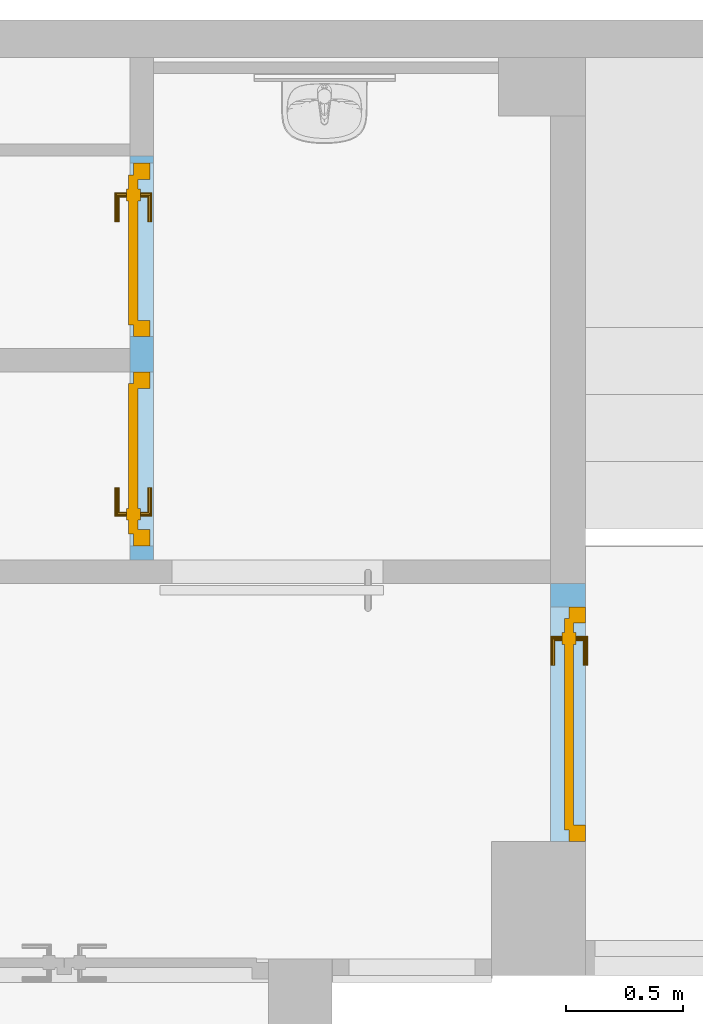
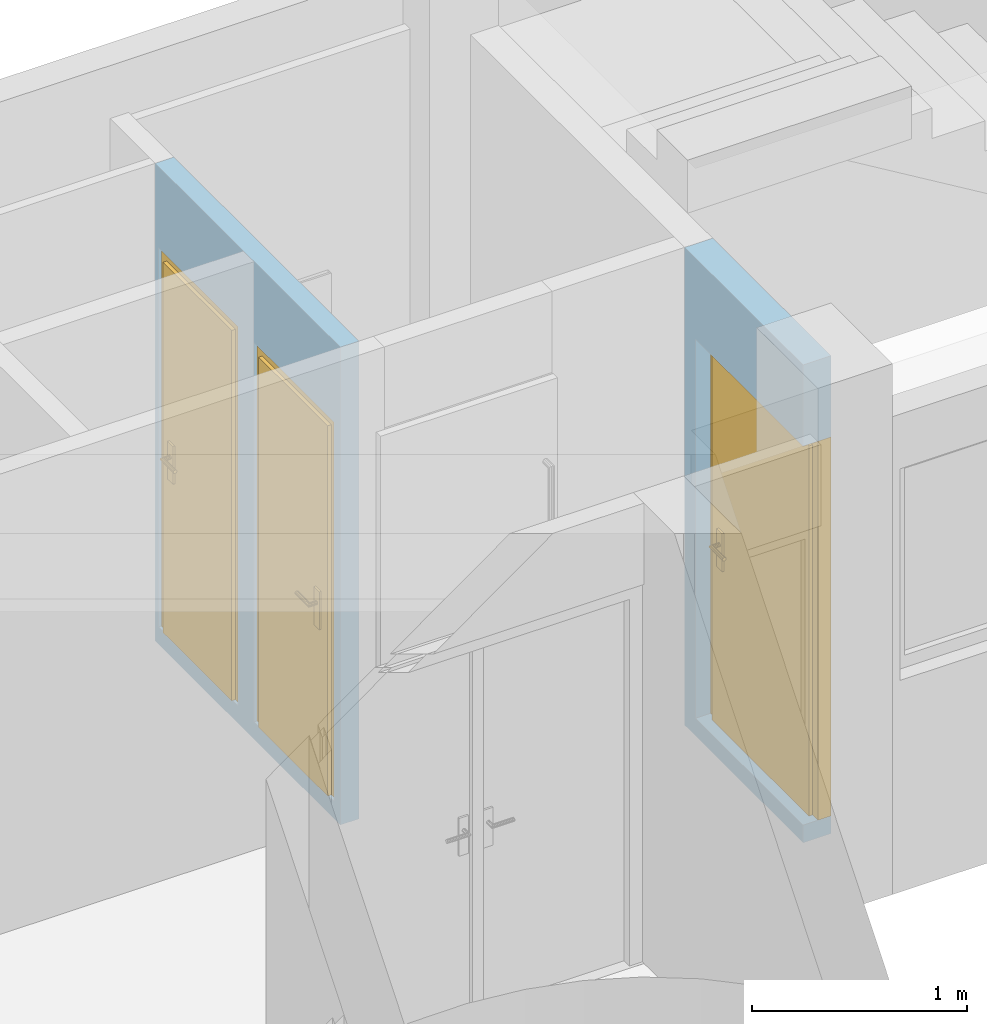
"""IFC4 building model written with IfcOpenShell, lengths in metres."""

from ifc_helpers import new_model, entity, si_unit, converted_unit, derived_unit, frame, frame_2d, origin, origin_with_axes, place, context, subcontext, project, spatial, polyline, rectangle, outline, extrude, faceted_brep, source, transform, mapped, material, layer, layer_set, layer_usage, element, fill, save


model = new_model("IFC4")

# Units and contexts
model_context = context("Model", 3, precision=1e-05, world=origin())
body_context = subcontext(model_context, "Body", "Model", "MODEL_VIEW")
ifc_project = project(units=[si_unit("LENGTHUNIT", "METRE"), si_unit("AREAUNIT", "SQUARE_METRE"), si_unit("VOLUMEUNIT", "CUBIC_METRE"), si_unit("MASSUNIT", "GRAM", prefix="KILO"), converted_unit("PLANEANGLEUNIT", "DEGREE", entity("IfcPlaneAngleMeasure", 0.0174532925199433), si_unit("PLANEANGLEUNIT", "RADIAN"), dimensions=[0, 0, 0, 0, 0, 0, 0]), derived_unit("THERMALTRANSMITTANCEUNIT", [(si_unit("POWERUNIT", "WATT"), 1), (si_unit("THERMODYNAMICTEMPERATUREUNIT", "KELVIN"), -1), (si_unit("LENGTHUNIT", "METRE"), -2)]), derived_unit("VOLUMETRICFLOWRATEUNIT", [(si_unit("LENGTHUNIT", "METRE"), 3), (converted_unit("TIMEUNIT", "hour", entity("IfcTimeMeasure", 3600.0), si_unit("TIMEUNIT", "SECOND"), dimensions=[0, 0, 1, 0, 0, 0, 0]), -1), (si_unit("LENGTHUNIT", "METRE"), -1)])], contexts=[model_context])

# Building, storeys
building_placement = place(None, origin())
building = spatial("IfcBuilding", under=ifc_project, at=building_placement, Name="HABITATGE PLURIFAMILIAR", CompositionType="ELEMENT")
storey_1_placement = place(building_placement, frame((0.0, 0.0, 18.29)))
storey_1 = spatial("IfcBuildingStorey", under=building, at=storey_1_placement, Name="PLANTA CINQUENA", CompositionType="ELEMENT", Elevation=18.29)
storey_2_placement = place(storey_1_placement, frame((0.0, 0.0, 15.28)))
storey_2 = spatial("IfcBuildingStorey", under=storey_1, at=storey_2_placement, Name="NOU", CompositionType="PARTIAL")

# Wall, openings, doors
ifc_material_1 = material()
ifc_layer_1 = layer(ifc_material_1, 0.1)
ifc_layer_set_1 = layer_set([ifc_layer_1])
ifc_layer_usage_1 = layer_usage(ifc_layer_set_1, "AXIS2", "POSITIVE", 0.0)
wall_1_placement = place(storey_2_placement, frame((408.986984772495, 25.9294598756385, -15.38), z_axis=(0.0, 0.0, 1.0), x_axis=(0.0, 1.0, 0.0)))
wall_1 = element("IfcWall", 1, at=wall_1_placement, inside=storey_2, material=ifc_layer_usage_1, Name="Evans P5", context=body_context, shape_type="SweptSolid", body=[
    extrude(rectangle(XDim=1.72000000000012, YDim=0.1, at=frame_2d((0.860000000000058, 0.05), x_axis=(1.0, 0.0))), origin_with_axes(), (0.0, 0.0, 1.0), 2.71),
])
opening_1_placement = place(wall_1_placement, frame((0.800488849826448, 0.1, 0.1), z_axis=(0.0, -1.0, 0.0), x_axis=(0.0, 0.0, 1.0)))
opening_1 = element("IfcOpeningElement", 2, at=opening_1_placement, cuts=wall_1, Name="Vano porta P5", ObjectType="Opening", context=body_context, shape_type="SweptSolid", body=[
    extrude(outline(polyline([(2.15, 0.741515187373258), (2.15, 0.0), (0.0, 0.0), (0.0, 0.741515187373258), (2.15, 0.741515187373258)])), origin_with_axes(), (0.0, 0.0, 1.0), 0.1),
])
opening_2_placement = place(wall_1_placement, frame((1.68897366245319, 0.1, 0.1), z_axis=(0.0, -1.0, 0.0), x_axis=(0.0, 0.0, 1.0)))
opening_2 = element("IfcOpeningElement", 3, at=opening_2_placement, cuts=wall_1, Name="Vano porta P5", ObjectType="Opening", context=body_context, shape_type="SweptSolid", body=[
    extrude(outline(polyline([(2.15, 0.738973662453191), (2.15, 0.0), (0.0, 0.0), (0.0, 0.738973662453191), (2.15, 0.738973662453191)])), origin_with_axes(), (0.0, 0.0, 1.0), 0.1),
])
shared_shape_1 = source(origin_with_axes(), body_context, "Body", "Brep", [
    faceted_brep([(0.0, 0.0700000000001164, 2.15), (0.0, 0.0700000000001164, 0.0), (0.0700000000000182, 0.0700000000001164, 0.0), (0.0700000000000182, 0.0700000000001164, 2.15), (0.0, 0.0, 0.0), (0.0, 0.0, 2.15), (0.0700000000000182, 0.0, 2.15), (0.0700000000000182, 0.0, 0.0)], [[[0, 1, 2, 3]], [[4, 5, 6, 7]], [[1, 0, 5, 4]], [[2, 1, 4, 7]], [[3, 2, 7, 6]], [[0, 3, 6, 5]]], orient=[[False], [False], [False], [False], [False], [False]]),
    faceted_brep([(0.671515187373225, 0.0700000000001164, 2.15), (0.671515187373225, 0.0700000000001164, 0.0), (0.74151518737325, 0.0700000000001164, 0.0), (0.74151518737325, 0.0700000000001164, 2.15), (0.671515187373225, 0.0, 0.0), (0.671515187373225, 0.0, 2.15), (0.74151518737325, 0.0, 2.15), (0.74151518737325, 0.0, 0.0)], [[[0, 1, 2, 3]], [[4, 5, 6, 7]], [[1, 0, 5, 4]], [[2, 1, 4, 7]], [[3, 2, 7, 6]], [[0, 3, 6, 5]]], orient=[[False], [False], [False], [False], [False], [False]]),
    faceted_brep([(0.0700000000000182, 0.0700000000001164, 2.15), (0.0700000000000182, 0.0700000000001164, 2.08), (0.671515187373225, 0.0700000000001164, 2.08), (0.671515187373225, 0.0700000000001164, 2.15), (0.0700000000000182, 0.0, 2.08), (0.0700000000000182, 0.0, 2.15), (0.671515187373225, 0.0, 2.15), (0.671515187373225, 0.0, 2.08)], [[[0, 1, 2, 3]], [[4, 5, 6, 7]], [[1, 0, 5, 4]], [[2, 1, 4, 7]], [[3, 2, 7, 6]], [[0, 3, 6, 5]]], orient=[[False], [False], [False], [False], [False], [False]]),
    faceted_brep([(0.0500000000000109, 0.0900000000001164, 2.1), (0.0500000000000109, 0.0900000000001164, 0.0), (0.691515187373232, 0.0900000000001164, 0.0), (0.691515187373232, 0.0900000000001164, 2.1), (0.0500000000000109, 0.0500000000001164, 0.0), (0.0500000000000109, 0.0500000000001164, 2.1), (0.691515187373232, 0.0500000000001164, 2.1), (0.691515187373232, 0.0500000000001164, 0.0)], [[[0, 1, 2, 3]], [[4, 5, 6, 7]], [[1, 0, 5, 4]], [[2, 1, 4, 7]], [[3, 2, 7, 6]], [[0, 3, 6, 5]]], orient=[[False], [False], [False], [False], [False], [False]]),
    faceted_brep([(0.110000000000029, 0.0500000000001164, 1.125), (0.110000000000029, 0.0500000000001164, 0.91), (0.160000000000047, 0.0500000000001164, 0.91), (0.160000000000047, 0.0500000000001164, 1.125), (0.110000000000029, 0.0400000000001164, 0.91), (0.110000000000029, 0.0400000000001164, 1.125), (0.160000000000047, 0.0400000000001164, 1.125), (0.160000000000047, 0.0400000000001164, 0.91)], [[[0, 1, 2, 3]], [[4, 5, 6, 7]], [[1, 0, 5, 4]], [[2, 1, 4, 7]], [[3, 2, 7, 6]], [[0, 3, 6, 5]]], orient=[[False], [False], [False], [False], [False], [False]]),
    faceted_brep([(0.13500000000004, 0.0400000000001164, 1.06), (0.130000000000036, 0.0400000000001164, 1.05866025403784), (0.126339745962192, 0.0400000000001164, 1.055), (0.125000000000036, 0.0400000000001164, 1.05), (0.126339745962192, 0.0400000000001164, 1.045), (0.130000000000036, 0.0400000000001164, 1.04133974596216), (0.13500000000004, 0.0400000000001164, 1.04), (0.14000000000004, 0.0400000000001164, 1.04133974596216), (0.143660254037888, 0.0400000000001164, 1.045), (0.145000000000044, 0.0400000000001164, 1.05), (0.143660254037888, 0.0400000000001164, 1.055), (0.14000000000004, 0.0400000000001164, 1.05866025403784), (0.13500000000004, 0.0, 1.06), (0.130000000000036, -0.00499999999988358, 1.05866025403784), (0.126339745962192, -0.00866025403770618, 1.055), (0.125000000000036, -0.00999999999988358, 1.05), (0.126339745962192, -0.00866025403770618, 1.045), (0.130000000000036, -0.00499999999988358, 1.04133974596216), (0.13500000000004, 0.0, 1.04), (0.14000000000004, 0.00500000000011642, 1.04133974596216), (0.143660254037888, 0.00866025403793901, 1.045), (0.145000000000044, 0.0100000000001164, 1.05), (0.143660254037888, 0.00866025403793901, 1.055), (0.14000000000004, 0.00500000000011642, 1.05866025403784), (0.25000000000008, 0.0, 1.06), (0.25000000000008, 0.00500000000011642, 1.05866025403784), (0.25000000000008, 0.00866025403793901, 1.055), (0.25000000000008, 0.0100000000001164, 1.05), (0.25000000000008, 0.00866025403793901, 1.045), (0.25000000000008, 0.00500000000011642, 1.04133974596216), (0.25000000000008, 0.0, 1.04), (0.25000000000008, -0.00499999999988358, 1.04133974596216), (0.25000000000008, -0.00866025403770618, 1.045), (0.25000000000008, -0.00999999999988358, 1.05), (0.25000000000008, -0.00866025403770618, 1.055), (0.25000000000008, -0.00499999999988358, 1.05866025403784)], [[[0, 1, 2, 3, 4, 5, 6, 7, 8, 9, 10, 11]], [[0, 12, 13, 1]], [[1, 13, 14, 2]], [[2, 14, 15, 3]], [[3, 15, 16, 4]], [[4, 16, 17, 5]], [[5, 17, 18, 6]], [[6, 18, 19, 7]], [[7, 19, 20, 8]], [[8, 20, 21, 9]], [[9, 21, 22, 10]], [[10, 22, 23, 11]], [[11, 23, 12, 0]], [[24, 25, 26, 27, 28, 29, 30, 31, 32, 33, 34, 35]], [[12, 24, 35, 13]], [[13, 35, 34, 14]], [[14, 34, 33, 15]], [[15, 33, 32, 16]], [[16, 32, 31, 17]], [[17, 31, 30, 18]], [[18, 30, 29, 19]], [[19, 29, 28, 20]], [[20, 28, 27, 21]], [[21, 27, 26, 22]], [[22, 26, 25, 23]], [[23, 25, 24, 12]]], orient=[[False], [False], [False], [False], [False], [False], [False], [False], [False], [False], [False], [False], [False], [False], [False], [False], [False], [False], [False], [False], [False], [False], [False], [False], [False], [False]]),
    faceted_brep([(0.110000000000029, 0.0900000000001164, 1.125), (0.160000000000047, 0.0900000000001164, 1.125), (0.160000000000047, 0.0900000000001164, 0.91), (0.110000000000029, 0.0900000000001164, 0.91), (0.110000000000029, 0.100000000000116, 0.91), (0.160000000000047, 0.100000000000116, 0.91), (0.160000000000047, 0.100000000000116, 1.125), (0.110000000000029, 0.100000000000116, 1.125)], [[[0, 1, 2, 3]], [[4, 5, 6, 7]], [[3, 4, 7, 0]], [[2, 5, 4, 3]], [[1, 6, 5, 2]], [[0, 7, 6, 1]]], orient=[[False], [False], [False], [False], [False], [False]]),
    faceted_brep([(0.13500000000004, 0.100000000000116, 1.06), (0.14000000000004, 0.100000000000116, 1.05866025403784), (0.143660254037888, 0.100000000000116, 1.055), (0.145000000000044, 0.100000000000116, 1.05), (0.143660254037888, 0.100000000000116, 1.045), (0.14000000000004, 0.100000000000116, 1.04133974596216), (0.13500000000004, 0.100000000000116, 1.04), (0.130000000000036, 0.100000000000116, 1.04133974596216), (0.126339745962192, 0.100000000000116, 1.045), (0.125000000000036, 0.100000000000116, 1.05), (0.126339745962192, 0.100000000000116, 1.055), (0.130000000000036, 0.100000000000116, 1.05866025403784), (0.130000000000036, 0.145000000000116, 1.05866025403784), (0.13500000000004, 0.140000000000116, 1.06), (0.126339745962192, 0.148660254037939, 1.055), (0.125000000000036, 0.150000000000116, 1.05), (0.126339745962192, 0.148660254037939, 1.045), (0.130000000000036, 0.145000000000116, 1.04133974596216), (0.13500000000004, 0.140000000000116, 1.04), (0.14000000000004, 0.135000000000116, 1.04133974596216), (0.143660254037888, 0.131339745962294, 1.045), (0.145000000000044, 0.130000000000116, 1.05), (0.143660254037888, 0.131339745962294, 1.055), (0.14000000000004, 0.135000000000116, 1.05866025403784), (0.25000000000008, 0.140000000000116, 1.06), (0.25000000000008, 0.145000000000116, 1.05866025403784), (0.25000000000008, 0.148660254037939, 1.055), (0.25000000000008, 0.150000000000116, 1.05), (0.25000000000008, 0.148660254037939, 1.045), (0.25000000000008, 0.145000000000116, 1.04133974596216), (0.25000000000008, 0.140000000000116, 1.04), (0.25000000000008, 0.135000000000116, 1.04133974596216), (0.25000000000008, 0.131339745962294, 1.045), (0.25000000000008, 0.130000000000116, 1.05), (0.25000000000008, 0.131339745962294, 1.055), (0.25000000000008, 0.135000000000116, 1.05866025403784)], [[[0, 1, 2, 3, 4, 5, 6, 7, 8, 9, 10, 11]], [[0, 11, 12, 13]], [[11, 10, 14, 12]], [[10, 9, 15, 14]], [[9, 8, 16, 15]], [[8, 7, 17, 16]], [[7, 6, 18, 17]], [[6, 5, 19, 18]], [[5, 4, 20, 19]], [[4, 3, 21, 20]], [[3, 2, 22, 21]], [[2, 1, 23, 22]], [[1, 0, 13, 23]], [[24, 25, 26, 27, 28, 29, 30, 31, 32, 33, 34, 35]], [[13, 12, 25, 24]], [[12, 14, 26, 25]], [[14, 15, 27, 26]], [[15, 16, 28, 27]], [[16, 17, 29, 28]], [[17, 18, 30, 29]], [[18, 19, 31, 30]], [[19, 20, 32, 31]], [[20, 21, 33, 32]], [[21, 22, 34, 33]], [[22, 23, 35, 34]], [[23, 13, 24, 35]]], orient=[[False], [False], [False], [False], [False], [False], [False], [False], [False], [False], [False], [False], [False], [False], [False], [False], [False], [False], [False], [False], [False], [False], [False], [False], [False], [False]]),
])
door_1_placement = place(opening_1_placement, frame((0.0, 0.741515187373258, 0.085), z_axis=(1.0, 0.0, 0.0), x_axis=(0.0, -1.0, 0.0)))
door_1 = element("IfcDoor", 4, at=door_1_placement, inside=storey_2, Name="Porta P5", OperationType="USERDEFINED", OverallHeight=2.15, OverallWidth=0.74152, PredefinedType="DOOR", context=body_context, shape_type="MappedRepresentation", body=[
    mapped(shared_shape_1, transform((0.0, 0.0, 0.0), x_axis=(1.0, 0.0, 0.0), y_axis=(0.0, 1.0, 0.0), z_axis=(0.0, 0.0, 1.0), scale=1.0)),
])
fill(opening_1, door_1)
shared_shape_2 = source(origin_with_axes(), body_context, "Body", "Brep", [
    faceted_brep([(0.738973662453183, 0.0700000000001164, 2.15), (0.668973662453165, 0.0700000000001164, 2.15), (0.668973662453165, 0.0700000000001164, 0.0), (0.738973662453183, 0.0700000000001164, 0.0), (0.738973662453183, 0.0, 0.0), (0.668973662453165, 0.0, 0.0), (0.668973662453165, 0.0, 2.15), (0.738973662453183, 0.0, 2.15)], [[[0, 1, 2, 3]], [[4, 5, 6, 7]], [[3, 4, 7, 0]], [[2, 5, 4, 3]], [[1, 6, 5, 2]], [[0, 7, 6, 1]]], orient=[[False], [False], [False], [False], [False], [False]]),
    faceted_brep([(0.0700000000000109, 0.0700000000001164, 2.15), (0.0, 0.0700000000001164, 2.15), (0.0, 0.0700000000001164, 0.0), (0.0700000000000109, 0.0700000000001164, 0.0), (0.0700000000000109, 0.0, 0.0), (0.0, 0.0, 0.0), (0.0, 0.0, 2.15), (0.0700000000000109, 0.0, 2.15)], [[[0, 1, 2, 3]], [[4, 5, 6, 7]], [[3, 4, 7, 0]], [[2, 5, 4, 3]], [[1, 6, 5, 2]], [[0, 7, 6, 1]]], orient=[[False], [False], [False], [False], [False], [False]]),
    faceted_brep([(0.668973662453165, 0.0700000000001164, 2.15), (0.0700000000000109, 0.0700000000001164, 2.15), (0.0700000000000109, 0.0700000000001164, 2.08), (0.668973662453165, 0.0700000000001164, 2.08), (0.668973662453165, 0.0, 2.08), (0.0700000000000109, 0.0, 2.08), (0.0700000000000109, 0.0, 2.15), (0.668973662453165, 0.0, 2.15)], [[[0, 1, 2, 3]], [[4, 5, 6, 7]], [[3, 4, 7, 0]], [[2, 5, 4, 3]], [[1, 6, 5, 2]], [[0, 7, 6, 1]]], orient=[[False], [False], [False], [False], [False], [False]]),
    faceted_brep([(0.688973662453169, 0.0900000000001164, 2.1), (0.0500000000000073, 0.0900000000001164, 2.1), (0.0500000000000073, 0.0900000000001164, 0.0), (0.688973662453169, 0.0900000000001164, 0.0), (0.688973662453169, 0.0500000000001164, 0.0), (0.0500000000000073, 0.0500000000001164, 0.0), (0.0500000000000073, 0.0500000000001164, 2.1), (0.688973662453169, 0.0500000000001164, 2.1)], [[[0, 1, 2, 3]], [[4, 5, 6, 7]], [[3, 4, 7, 0]], [[2, 5, 4, 3]], [[1, 6, 5, 2]], [[0, 7, 6, 1]]], orient=[[False], [False], [False], [False], [False], [False]]),
    faceted_brep([(0.628973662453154, 0.0500000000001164, 1.125), (0.578973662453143, 0.0500000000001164, 1.125), (0.578973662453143, 0.0500000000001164, 0.91), (0.628973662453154, 0.0500000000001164, 0.91), (0.628973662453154, 0.0400000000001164, 0.91), (0.578973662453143, 0.0400000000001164, 0.91), (0.578973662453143, 0.0400000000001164, 1.125), (0.628973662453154, 0.0400000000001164, 1.125)], [[[0, 1, 2, 3]], [[4, 5, 6, 7]], [[3, 4, 7, 0]], [[2, 5, 4, 3]], [[1, 6, 5, 2]], [[0, 7, 6, 1]]], orient=[[False], [False], [False], [False], [False], [False]]),
    faceted_brep([(0.603973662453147, 0.0400000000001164, 1.06), (0.598973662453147, 0.0400000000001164, 1.05866025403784), (0.595313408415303, 0.0400000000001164, 1.055), (0.593973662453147, 0.0400000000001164, 1.05), (0.595313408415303, 0.0400000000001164, 1.045), (0.598973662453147, 0.0400000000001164, 1.04133974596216), (0.603973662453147, 0.0400000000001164, 1.04), (0.608973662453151, 0.0400000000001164, 1.04133974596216), (0.612633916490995, 0.0400000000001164, 1.045), (0.613973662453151, 0.0400000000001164, 1.05), (0.612633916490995, 0.0400000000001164, 1.055), (0.608973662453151, 0.0400000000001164, 1.05866025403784), (0.608973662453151, -0.00499999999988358, 1.05866025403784), (0.603973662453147, 0.0, 1.06), (0.612633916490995, -0.00866025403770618, 1.055), (0.613973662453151, -0.00999999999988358, 1.05), (0.612633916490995, -0.00866025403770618, 1.045), (0.608973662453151, -0.00499999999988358, 1.04133974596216), (0.603973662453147, 0.0, 1.04), (0.598973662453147, 0.00500000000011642, 1.04133974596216), (0.595313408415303, 0.00866025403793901, 1.045), (0.593973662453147, 0.0100000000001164, 1.05), (0.595313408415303, 0.00866025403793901, 1.055), (0.598973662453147, 0.00500000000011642, 1.05866025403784), (0.488973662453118, 0.0, 1.06), (0.488973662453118, -0.00499999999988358, 1.05866025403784), (0.488973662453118, -0.00866025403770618, 1.055), (0.488973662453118, -0.00999999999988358, 1.05), (0.488973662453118, -0.00866025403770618, 1.045), (0.488973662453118, -0.00499999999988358, 1.04133974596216), (0.488973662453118, 0.0, 1.04), (0.488973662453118, 0.00500000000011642, 1.04133974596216), (0.488973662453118, 0.00866025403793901, 1.045), (0.488973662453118, 0.0100000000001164, 1.05), (0.488973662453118, 0.00866025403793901, 1.055), (0.488973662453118, 0.00500000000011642, 1.05866025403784)], [[[0, 1, 2, 3, 4, 5, 6, 7, 8, 9, 10, 11]], [[0, 11, 12, 13]], [[11, 10, 14, 12]], [[10, 9, 15, 14]], [[9, 8, 16, 15]], [[8, 7, 17, 16]], [[7, 6, 18, 17]], [[6, 5, 19, 18]], [[5, 4, 20, 19]], [[4, 3, 21, 20]], [[3, 2, 22, 21]], [[2, 1, 23, 22]], [[1, 0, 13, 23]], [[24, 25, 26, 27, 28, 29, 30, 31, 32, 33, 34, 35]], [[13, 12, 25, 24]], [[12, 14, 26, 25]], [[14, 15, 27, 26]], [[15, 16, 28, 27]], [[16, 17, 29, 28]], [[17, 18, 30, 29]], [[18, 19, 31, 30]], [[19, 20, 32, 31]], [[20, 21, 33, 32]], [[21, 22, 34, 33]], [[22, 23, 35, 34]], [[23, 13, 24, 35]]], orient=[[False], [False], [False], [False], [False], [False], [False], [False], [False], [False], [False], [False], [False], [False], [False], [False], [False], [False], [False], [False], [False], [False], [False], [False], [False], [False]]),
    faceted_brep([(0.628973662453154, 0.0900000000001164, 1.125), (0.628973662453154, 0.0900000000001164, 0.91), (0.578973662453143, 0.0900000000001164, 0.91), (0.578973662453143, 0.0900000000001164, 1.125), (0.628973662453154, 0.100000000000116, 0.91), (0.628973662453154, 0.100000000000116, 1.125), (0.578973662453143, 0.100000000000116, 1.125), (0.578973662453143, 0.100000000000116, 0.91)], [[[0, 1, 2, 3]], [[4, 5, 6, 7]], [[1, 0, 5, 4]], [[2, 1, 4, 7]], [[3, 2, 7, 6]], [[0, 3, 6, 5]]], orient=[[False], [False], [False], [False], [False], [False]]),
    faceted_brep([(0.603973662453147, 0.100000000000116, 1.06), (0.608973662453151, 0.100000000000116, 1.05866025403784), (0.612633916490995, 0.100000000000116, 1.055), (0.613973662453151, 0.100000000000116, 1.05), (0.612633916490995, 0.100000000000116, 1.045), (0.608973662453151, 0.100000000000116, 1.04133974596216), (0.603973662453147, 0.100000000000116, 1.04), (0.598973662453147, 0.100000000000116, 1.04133974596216), (0.595313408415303, 0.100000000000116, 1.045), (0.593973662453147, 0.100000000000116, 1.05), (0.595313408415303, 0.100000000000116, 1.055), (0.598973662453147, 0.100000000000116, 1.05866025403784), (0.603973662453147, 0.140000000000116, 1.06), (0.608973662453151, 0.145000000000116, 1.05866025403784), (0.612633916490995, 0.148660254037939, 1.055), (0.613973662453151, 0.150000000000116, 1.05), (0.612633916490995, 0.148660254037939, 1.045), (0.608973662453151, 0.145000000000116, 1.04133974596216), (0.603973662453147, 0.140000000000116, 1.04), (0.598973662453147, 0.135000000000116, 1.04133974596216), (0.595313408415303, 0.131339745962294, 1.045), (0.593973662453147, 0.130000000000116, 1.05), (0.595313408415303, 0.131339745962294, 1.055), (0.598973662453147, 0.135000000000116, 1.05866025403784), (0.488973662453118, 0.140000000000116, 1.06), (0.488973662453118, 0.135000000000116, 1.05866025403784), (0.488973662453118, 0.131339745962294, 1.055), (0.488973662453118, 0.130000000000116, 1.05), (0.488973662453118, 0.131339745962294, 1.045), (0.488973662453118, 0.135000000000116, 1.04133974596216), (0.488973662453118, 0.140000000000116, 1.04), (0.488973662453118, 0.145000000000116, 1.04133974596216), (0.488973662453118, 0.148660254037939, 1.045), (0.488973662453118, 0.150000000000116, 1.05), (0.488973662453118, 0.148660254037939, 1.055), (0.488973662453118, 0.145000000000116, 1.05866025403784)], [[[0, 1, 2, 3, 4, 5, 6, 7, 8, 9, 10, 11]], [[0, 12, 13, 1]], [[1, 13, 14, 2]], [[2, 14, 15, 3]], [[3, 15, 16, 4]], [[4, 16, 17, 5]], [[5, 17, 18, 6]], [[6, 18, 19, 7]], [[7, 19, 20, 8]], [[8, 20, 21, 9]], [[9, 21, 22, 10]], [[10, 22, 23, 11]], [[11, 23, 12, 0]], [[24, 25, 26, 27, 28, 29, 30, 31, 32, 33, 34, 35]], [[12, 24, 35, 13]], [[13, 35, 34, 14]], [[14, 34, 33, 15]], [[15, 33, 32, 16]], [[16, 32, 31, 17]], [[17, 31, 30, 18]], [[18, 30, 29, 19]], [[19, 29, 28, 20]], [[20, 28, 27, 21]], [[21, 27, 26, 22]], [[22, 26, 25, 23]], [[23, 25, 24, 12]]], orient=[[False], [False], [False], [False], [False], [False], [False], [False], [False], [False], [False], [False], [False], [False], [False], [False], [False], [False], [False], [False], [False], [False], [False], [False], [False], [False]]),
])
door_2_placement = place(opening_2_placement, frame((0.0, 0.738973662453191, 0.085), z_axis=(1.0, 0.0, 0.0), x_axis=(0.0, -1.0, 0.0)))
door_2 = element("IfcDoor", 5, at=door_2_placement, inside=storey_2, Name="Porta P5", OperationType="USERDEFINED", OverallHeight=2.15, OverallWidth=0.73897, PredefinedType="DOOR", context=body_context, shape_type="MappedRepresentation", body=[
    mapped(shared_shape_2, transform((0.0, 0.0, 0.0), x_axis=(1.0, 0.0, 0.0), y_axis=(0.0, 1.0, 0.0), z_axis=(0.0, 0.0, 1.0), scale=1.0)),
])
fill(opening_2, door_2)

# Wall, opening, door
ifc_material_2 = material()
ifc_layer_2 = layer(ifc_material_2, 0.15)
ifc_layer_set_2 = layer_set([ifc_layer_2])
ifc_layer_usage_2 = layer_usage(ifc_layer_set_2, "AXIS2", "POSITIVE", 0.0)
wall_2_placement = place(storey_2_placement, frame((410.826984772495, 24.7294598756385, -15.38), z_axis=(0.0, 0.0, 1.0), x_axis=(0.0, 1.0, 0.0)))
wall_2 = element("IfcWall", 6, at=wall_2_placement, inside=storey_2, material=ifc_layer_usage_2, Name="Evans P5", context=body_context, shape_type="SweptSolid", body=[
    extrude(rectangle(XDim=1.1, YDim=0.15, at=frame_2d((0.55, 0.075), x_axis=(1.0, 0.0))), origin_with_axes(), (0.0, 0.0, 1.0), 2.71),
])
opening_3_placement = place(wall_2_placement, frame((0.0, 0.0, 0.1), z_axis=(0.0, 1.0, 0.0), x_axis=(0.0, 0.0, 1.0)))
opening_3 = element("IfcOpeningElement", 7, at=opening_3_placement, cuts=wall_2, Name="Vano porta P5", ObjectType="Opening", context=body_context, shape_type="SweptSolid", body=[
    extrude(outline(polyline([(2.15, 1.0), (2.15, 0.0), (0.0, 0.0), (0.0, 1.0), (2.15, 1.0)])), origin_with_axes(), (0.0, 0.0, 1.0), 0.15),
])
shared_shape_3 = source(origin_with_axes(), body_context, "Body", "Brep", [
    faceted_brep([(1.0, 0.03, 2.15), (0.93, 0.03, 2.15), (0.93, 0.03, 0.0), (1.0, 0.03, 0.0), (1.0, -0.04, 0.0), (0.93, -0.04, 0.0), (0.93, -0.04, 2.15), (1.0, -0.04, 2.15)], [[[0, 1, 2, 3]], [[4, 5, 6, 7]], [[3, 4, 7, 0]], [[2, 5, 4, 3]], [[1, 6, 5, 2]], [[0, 7, 6, 1]]], orient=[[False], [False], [False], [False], [False], [False]]),
    faceted_brep([(0.07, 0.03, 2.15), (0.0, 0.03, 2.15), (0.0, 0.03, 0.0), (0.07, 0.03, 0.0), (0.07, -0.04, 0.0), (0.0, -0.04, 0.0), (0.0, -0.04, 2.15), (0.07, -0.04, 2.15)], [[[0, 1, 2, 3]], [[4, 5, 6, 7]], [[3, 4, 7, 0]], [[2, 5, 4, 3]], [[1, 6, 5, 2]], [[0, 7, 6, 1]]], orient=[[False], [False], [False], [False], [False], [False]]),
    faceted_brep([(0.93, 0.03, 2.15), (0.07, 0.03, 2.15), (0.07, 0.03, 2.08), (0.93, 0.03, 2.08), (0.93, -0.04, 2.08), (0.07, -0.04, 2.08), (0.07, -0.04, 2.15), (0.93, -0.04, 2.15)], [[[0, 1, 2, 3]], [[4, 5, 6, 7]], [[3, 4, 7, 0]], [[2, 5, 4, 3]], [[1, 6, 5, 2]], [[0, 7, 6, 1]]], orient=[[False], [False], [False], [False], [False], [False]]),
    faceted_brep([(0.95, 0.05, 2.1), (0.05, 0.05, 2.1), (0.05, 0.05, 0.0), (0.95, 0.05, 0.0), (0.95, 0.01, 0.0), (0.05, 0.01, 0.0), (0.05, 0.01, 2.1), (0.95, 0.01, 2.1)], [[[0, 1, 2, 3]], [[4, 5, 6, 7]], [[3, 4, 7, 0]], [[2, 5, 4, 3]], [[1, 6, 5, 2]], [[0, 7, 6, 1]]], orient=[[False], [False], [False], [False], [False], [False]]),
    faceted_brep([(0.89, 0.01, 1.125), (0.84, 0.01, 1.125), (0.84, 0.01, 0.91), (0.89, 0.01, 0.91), (0.89, 0.0, 0.91), (0.84, 0.0, 0.91), (0.84, 0.0, 1.125), (0.89, 0.0, 1.125)], [[[0, 1, 2, 3]], [[4, 5, 6, 7]], [[3, 4, 7, 0]], [[2, 5, 4, 3]], [[1, 6, 5, 2]], [[0, 7, 6, 1]]], orient=[[False], [False], [False], [False], [False], [False]]),
    faceted_brep([(0.865, 0.0, 1.06), (0.86, 0.0, 1.05866025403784), (0.856339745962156, 0.0, 1.055), (0.855, 0.0, 1.05), (0.856339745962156, 0.0, 1.045), (0.86, 0.0, 1.04133974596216), (0.865, 0.0, 1.04), (0.87, 0.0, 1.04133974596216), (0.873660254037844, 0.0, 1.045), (0.875, 0.0, 1.05), (0.873660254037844, 0.0, 1.055), (0.87, 0.0, 1.05866025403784), (0.87, -0.045, 1.05866025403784), (0.865, -0.04, 1.06), (0.873660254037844, -0.0486602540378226, 1.055), (0.875, -0.05, 1.05), (0.873660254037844, -0.0486602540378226, 1.045), (0.87, -0.045, 1.04133974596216), (0.865, -0.04, 1.04), (0.86, -0.035, 1.04133974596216), (0.856339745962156, -0.0313397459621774, 1.045), (0.855, -0.03, 1.05), (0.856339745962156, -0.0313397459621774, 1.055), (0.86, -0.035, 1.05866025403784), (0.75, -0.04, 1.06), (0.75, -0.045, 1.05866025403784), (0.75, -0.0486602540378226, 1.055), (0.75, -0.05, 1.05), (0.75, -0.0486602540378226, 1.045), (0.75, -0.045, 1.04133974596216), (0.75, -0.04, 1.04), (0.75, -0.035, 1.04133974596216), (0.75, -0.0313397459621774, 1.045), (0.75, -0.03, 1.05), (0.75, -0.0313397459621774, 1.055), (0.75, -0.035, 1.05866025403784)], [[[0, 1, 2, 3, 4, 5, 6, 7, 8, 9, 10, 11]], [[0, 11, 12, 13]], [[11, 10, 14, 12]], [[10, 9, 15, 14]], [[9, 8, 16, 15]], [[8, 7, 17, 16]], [[7, 6, 18, 17]], [[6, 5, 19, 18]], [[5, 4, 20, 19]], [[4, 3, 21, 20]], [[3, 2, 22, 21]], [[2, 1, 23, 22]], [[1, 0, 13, 23]], [[24, 25, 26, 27, 28, 29, 30, 31, 32, 33, 34, 35]], [[13, 12, 25, 24]], [[12, 14, 26, 25]], [[14, 15, 27, 26]], [[15, 16, 28, 27]], [[16, 17, 29, 28]], [[17, 18, 30, 29]], [[18, 19, 31, 30]], [[19, 20, 32, 31]], [[20, 21, 33, 32]], [[21, 22, 34, 33]], [[22, 23, 35, 34]], [[23, 13, 24, 35]]], orient=[[False], [False], [False], [False], [False], [False], [False], [False], [False], [False], [False], [False], [False], [False], [False], [False], [False], [False], [False], [False], [False], [False], [False], [False], [False], [False]]),
    faceted_brep([(0.89, 0.05, 1.125), (0.89, 0.05, 0.91), (0.84, 0.05, 0.91), (0.84, 0.05, 1.125), (0.89, 0.06, 0.91), (0.89, 0.06, 1.125), (0.84, 0.06, 1.125), (0.84, 0.06, 0.91)], [[[0, 1, 2, 3]], [[4, 5, 6, 7]], [[1, 0, 5, 4]], [[2, 1, 4, 7]], [[3, 2, 7, 6]], [[0, 3, 6, 5]]], orient=[[False], [False], [False], [False], [False], [False]]),
    faceted_brep([(0.865, 0.06, 1.06), (0.87, 0.06, 1.05866025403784), (0.873660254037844, 0.06, 1.055), (0.875, 0.06, 1.05), (0.873660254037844, 0.06, 1.045), (0.87, 0.06, 1.04133974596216), (0.865, 0.06, 1.04), (0.86, 0.06, 1.04133974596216), (0.856339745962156, 0.06, 1.045), (0.855, 0.06, 1.05), (0.856339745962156, 0.06, 1.055), (0.86, 0.06, 1.05866025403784), (0.865, 0.1, 1.06), (0.87, 0.105, 1.05866025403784), (0.873660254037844, 0.108660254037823, 1.055), (0.875, 0.11, 1.05), (0.873660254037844, 0.108660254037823, 1.045), (0.87, 0.105, 1.04133974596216), (0.865, 0.1, 1.04), (0.86, 0.095, 1.04133974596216), (0.856339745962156, 0.0913397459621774, 1.045), (0.855, 0.09, 1.05), (0.856339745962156, 0.0913397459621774, 1.055), (0.86, 0.095, 1.05866025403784), (0.75, 0.1, 1.06), (0.75, 0.095, 1.05866025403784), (0.75, 0.0913397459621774, 1.055), (0.75, 0.09, 1.05), (0.75, 0.0913397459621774, 1.045), (0.75, 0.095, 1.04133974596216), (0.75, 0.1, 1.04), (0.75, 0.105, 1.04133974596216), (0.75, 0.108660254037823, 1.045), (0.75, 0.11, 1.05), (0.75, 0.108660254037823, 1.055), (0.75, 0.105, 1.05866025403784)], [[[0, 1, 2, 3, 4, 5, 6, 7, 8, 9, 10, 11]], [[0, 12, 13, 1]], [[1, 13, 14, 2]], [[2, 14, 15, 3]], [[3, 15, 16, 4]], [[4, 16, 17, 5]], [[5, 17, 18, 6]], [[6, 18, 19, 7]], [[7, 19, 20, 8]], [[8, 20, 21, 9]], [[9, 21, 22, 10]], [[10, 22, 23, 11]], [[11, 23, 12, 0]], [[24, 25, 26, 27, 28, 29, 30, 31, 32, 33, 34, 35]], [[12, 24, 35, 13]], [[13, 35, 34, 14]], [[14, 34, 33, 15]], [[15, 33, 32, 16]], [[16, 32, 31, 17]], [[17, 31, 30, 18]], [[18, 30, 29, 19]], [[19, 29, 28, 20]], [[20, 28, 27, 21]], [[21, 27, 26, 22]], [[22, 26, 25, 23]], [[23, 25, 24, 12]]], orient=[[False], [False], [False], [False], [False], [False], [False], [False], [False], [False], [False], [False], [False], [False], [False], [False], [False], [False], [False], [False], [False], [False], [False], [False], [False], [False]]),
])
door_3_placement = place(opening_3_placement, frame((0.0, 0.0, 0.04), z_axis=(1.0, 0.0, 0.0), x_axis=(0.0, 1.0, 0.0)))
door_3 = element("IfcDoor", 8, at=door_3_placement, inside=storey_2, Name="Porta P5", OperationType="USERDEFINED", OverallHeight=2.15, OverallWidth=1.0, PredefinedType="DOOR", context=body_context, shape_type="MappedRepresentation", body=[
    mapped(shared_shape_3, transform((0.0, 0.0, 0.0), x_axis=(1.0, 0.0, 0.0), y_axis=(0.0, 1.0, 0.0), z_axis=(0.0, 0.0, 1.0), scale=1.0)),
])
fill(opening_3, door_3)

save(model, "model.ifc")
